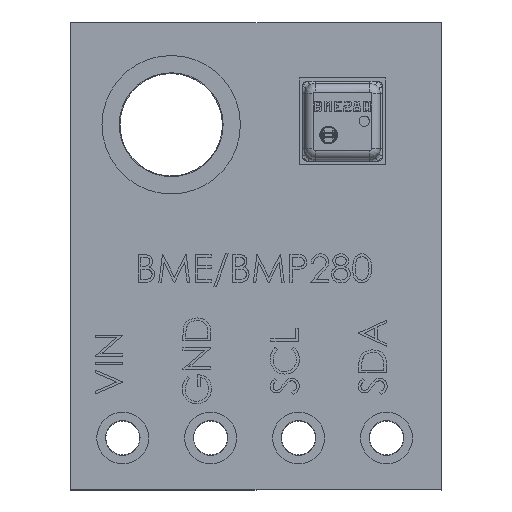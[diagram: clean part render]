
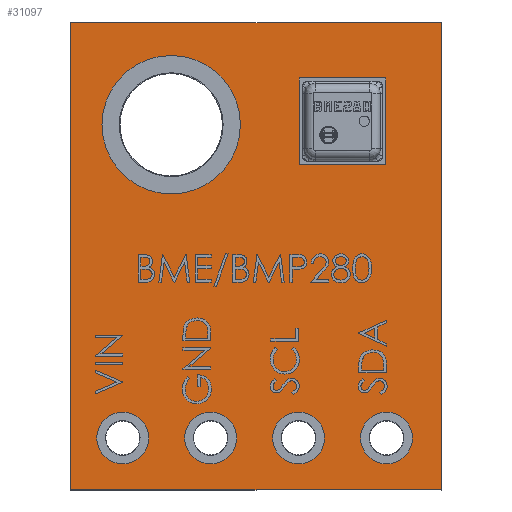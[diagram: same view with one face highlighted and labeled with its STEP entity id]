
A CAD part, top view. The second image highlights one B-rep face of the part: STEP entity #31097.
In plain terms, the highlighted planar face has unit normal (0, 0, 1).
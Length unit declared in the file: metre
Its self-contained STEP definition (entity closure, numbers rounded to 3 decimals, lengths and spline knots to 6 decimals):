
#916 = CIRCLE ( 'NONE', #25855, 0.0005 ) ;
#2314 = FACE_BOUND ( 'NONE', #11970, .T. ) ;
#2342 = ORIENTED_EDGE ( 'NONE', *, *, #15567, .F. ) ;
#2503 = DIRECTION ( 'NONE',  ( 1., 0., 0. ) ) ;
#2860 = LINE ( 'NONE', #10835, #73960 ) ;
#3263 = EDGE_LOOP ( 'NONE', ( #79732, #35209 ) ) ;
#3795 = DIRECTION ( 'NONE',  ( 0., 0., 1. ) ) ;
#4925 = DIRECTION ( 'NONE',  ( 1., 0., 0. ) ) ;
#5903 = EDGE_LOOP ( 'NONE', ( #46539, #21378 ) ) ;
#6475 = EDGE_CURVE ( 'NONE', #59530, #54590, #55738, .T. ) ;
#6711 = DIRECTION ( 'NONE',  ( 0., 1., 0. ) ) ;
#7568 = CARTESIAN_POINT ( 'NONE',  ( -0.00395, 0.01055, 0.0016 ) ) ;
#8249 = EDGE_CURVE ( 'NONE', #74513, #12597, #916, .T. ) ;
#8460 = EDGE_CURVE ( 'NONE', #54590, #59530, #39709, .T. ) ;
#8975 = CARTESIAN_POINT ( 'NONE',  ( -0.00245, 0.01055, 0.0016 ) ) ;
#10835 = CARTESIAN_POINT ( 'NONE',  ( -0.00535, 0., 0.0016 ) ) ;
#10980 = FACE_OUTER_BOUND ( 'NONE', #55291, .T. ) ;
#11472 = VERTEX_POINT ( 'NONE', #42744 ) ;
#11970 = EDGE_LOOP ( 'NONE', ( #47840, #75528 ) ) ;
#12597 = VERTEX_POINT ( 'NONE', #27716 ) ;
#13218 = EDGE_CURVE ( 'NONE', #43951, #11472, #62183, .T. ) ;
#13572 = VERTEX_POINT ( 'NONE', #62143 ) ;
#13901 = CIRCLE ( 'NONE', #23006, 0.0005 ) ;
#13911 = ORIENTED_EDGE ( 'NONE', *, *, #65842, .T. ) ;
#15567 = EDGE_CURVE ( 'NONE', #12597, #74513, #24931, .T. ) ;
#15974 = DIRECTION ( 'NONE',  ( 0., 0., 1. ) ) ;
#16266 = DIRECTION ( 'NONE',  ( 1., 0., 0. ) ) ;
#16425 = DIRECTION ( 'NONE',  ( 1., 0., 0. ) ) ;
#17626 = DIRECTION ( 'NONE',  ( 1., 0., 0. ) ) ;
#17945 = CARTESIAN_POINT ( 'NONE',  ( 0.00123, 0.0015, 0.0016 ) ) ;
#18035 = DIRECTION ( 'NONE',  ( 1., 0., 0. ) ) ;
#18995 = AXIS2_PLACEMENT_3D ( 'NONE', #46425, #71574, #40456 ) ;
#19338 = VECTOR ( 'NONE', #39774, 1. ) ;
#20483 = CARTESIAN_POINT ( 'NONE',  ( -0.00131, 0.0015, 0.0016 ) ) ;
#21378 = ORIENTED_EDGE ( 'NONE', *, *, #6475, .F. ) ;
#21494 = AXIS2_PLACEMENT_3D ( 'NONE', #20483, #44210, #50479 ) ;
#22097 = VERTEX_POINT ( 'NONE', #74052 ) ;
#22608 = CARTESIAN_POINT ( 'NONE',  ( 0.00173, 0.0015, 0.0016 ) ) ;
#23006 = AXIS2_PLACEMENT_3D ( 'NONE', #37123, #69038, #61646 ) ;
#24344 = ORIENTED_EDGE ( 'NONE', *, *, #13218, .F. ) ;
#24931 = CIRCLE ( 'NONE', #69052, 0.0005 ) ;
#25087 = CIRCLE ( 'NONE', #42968, 0.0005 ) ;
#25855 = AXIS2_PLACEMENT_3D ( 'NONE', #17945, #55533, #4925 ) ;
#26111 = VERTEX_POINT ( 'NONE', #71561 ) ;
#27531 = FACE_BOUND ( 'NONE', #57807, .T. ) ;
#27672 = CARTESIAN_POINT ( 'NONE',  ( -0.00535, 0.0135, 0.0016 ) ) ;
#27716 = CARTESIAN_POINT ( 'NONE',  ( 0.00073, 0.0015, 0.0016 ) ) ;
#28610 = EDGE_CURVE ( 'NONE', #26111, #78781, #70004, .T. ) ;
#28782 = AXIS2_PLACEMENT_3D ( 'NONE', #43615, #55084, #18035 ) ;
#29094 = DIRECTION ( 'NONE',  ( 0., 0., 1. ) ) ;
#29371 = DIRECTION ( 'NONE',  ( 1., 0., 0. ) ) ;
#29683 = EDGE_CURVE ( 'NONE', #53187, #22097, #38467, .T. ) ;
#30955 = VECTOR ( 'NONE', #40214, 1. ) ;
#31097 = ADVANCED_FACE ( 'NONE', ( #44105, #27531, #51886, #2314, #60657, #10980 ), #66036, .T. ) ;
#35048 = CARTESIAN_POINT ( 'NONE',  ( -0.00535, 0.0135, 0.0016 ) ) ;
#35209 = ORIENTED_EDGE ( 'NONE', *, *, #57790, .F. ) ;
#35276 = VERTEX_POINT ( 'NONE', #45652 ) ;
#37123 = CARTESIAN_POINT ( 'NONE',  ( -0.00131, 0.0015, 0.0016 ) ) ;
#38467 = CIRCLE ( 'NONE', #28782, 0.0005 ) ;
#39709 = CIRCLE ( 'NONE', #77588, 0.0015 ) ;
#39774 = DIRECTION ( 'NONE',  ( -1., 0., 0. ) ) ;
#40214 = DIRECTION ( 'NONE',  ( 0., -1., 0. ) ) ;
#40456 = DIRECTION ( 'NONE',  ( 1., 0., 0. ) ) ;
#40491 = VECTOR ( 'NONE', #6711, 1. ) ;
#41655 = ORIENTED_EDGE ( 'NONE', *, *, #47904, .F. ) ;
#42039 = CARTESIAN_POINT ( 'NONE',  ( 0., 0., 0.0016 ) ) ;
#42151 = CARTESIAN_POINT ( 'NONE',  ( -0.00385, 0.0015, 0.0016 ) ) ;
#42744 = CARTESIAN_POINT ( 'NONE',  ( 0.00327, 0.0015, 0.0016 ) ) ;
#42968 = AXIS2_PLACEMENT_3D ( 'NONE', #59529, #3795, #66369 ) ;
#43615 = CARTESIAN_POINT ( 'NONE',  ( -0.00385, 0.0015, 0.0016 ) ) ;
#43951 = VERTEX_POINT ( 'NONE', #72954 ) ;
#44105 = FACE_BOUND ( 'NONE', #3263, .T. ) ;
#44210 = DIRECTION ( 'NONE',  ( 0., 0., 1. ) ) ;
#44521 = AXIS2_PLACEMENT_3D ( 'NONE', #42039, #54569, #16425 ) ;
#44645 = ORIENTED_EDGE ( 'NONE', *, *, #76860, .T. ) ;
#45173 = EDGE_CURVE ( 'NONE', #68158, #45353, #2860, .T. ) ;
#45353 = VERTEX_POINT ( 'NONE', #70685 ) ;
#45652 = CARTESIAN_POINT ( 'NONE',  ( -0.00181, 0.0015, 0.0016 ) ) ;
#46425 = CARTESIAN_POINT ( 'NONE',  ( -0.00245, 0.01055, 0.0016 ) ) ;
#46539 = ORIENTED_EDGE ( 'NONE', *, *, #8460, .F. ) ;
#47840 = ORIENTED_EDGE ( 'NONE', *, *, #78863, .F. ) ;
#47904 = EDGE_CURVE ( 'NONE', #11472, #43951, #25087, .T. ) ;
#49321 = CIRCLE ( 'NONE', #21494, 0.0005 ) ;
#50479 = DIRECTION ( 'NONE',  ( 1., 0., 0. ) ) ;
#51886 = FACE_BOUND ( 'NONE', #78197, .T. ) ;
#52111 = CIRCLE ( 'NONE', #59899, 0.0005 ) ;
#53187 = VERTEX_POINT ( 'NONE', #70430 ) ;
#54569 = DIRECTION ( 'NONE',  ( 0., 0., 1. ) ) ;
#54590 = VERTEX_POINT ( 'NONE', #67486 ) ;
#54902 = CARTESIAN_POINT ( 'NONE',  ( 0.00535, 0.0135, 0.0016 ) ) ;
#54956 = DIRECTION ( 'NONE',  ( 0., 0., 1. ) ) ;
#55084 = DIRECTION ( 'NONE',  ( 0., 0., 1. ) ) ;
#55291 = EDGE_LOOP ( 'NONE', ( #13911, #59079, #44645, #69959 ) ) ;
#55533 = DIRECTION ( 'NONE',  ( 0., 0., 1. ) ) ;
#55738 = CIRCLE ( 'NONE', #18995, 0.0015 ) ;
#57790 = EDGE_CURVE ( 'NONE', #35276, #13572, #13901, .T. ) ;
#57807 = EDGE_LOOP ( 'NONE', ( #74127, #2342 ) ) ;
#59079 = ORIENTED_EDGE ( 'NONE', *, *, #45173, .T. ) ;
#59529 = CARTESIAN_POINT ( 'NONE',  ( 0.00377, 0.0015, 0.0016 ) ) ;
#59530 = VERTEX_POINT ( 'NONE', #7568 ) ;
#59899 = AXIS2_PLACEMENT_3D ( 'NONE', #42151, #54956, #17626 ) ;
#60657 = FACE_BOUND ( 'NONE', #5903, .T. ) ;
#61068 = CARTESIAN_POINT ( 'NONE',  ( 0.00377, 0.0015, 0.0016 ) ) ;
#61646 = DIRECTION ( 'NONE',  ( 1., 0., 0. ) ) ;
#62143 = CARTESIAN_POINT ( 'NONE',  ( -0.00081, 0.0015, 0.0016 ) ) ;
#62155 = DIRECTION ( 'NONE',  ( 0., 0., 1. ) ) ;
#62183 = CIRCLE ( 'NONE', #64064, 0.0005 ) ;
#64064 = AXIS2_PLACEMENT_3D ( 'NONE', #61068, #62155, #73947 ) ;
#64281 = CARTESIAN_POINT ( 'NONE',  ( -0.00535, 0.0135, 0.0016 ) ) ;
#65842 = EDGE_CURVE ( 'NONE', #78781, #68158, #72917, .T. ) ;
#66036 = PLANE ( 'NONE',  #44521 ) ;
#66369 = DIRECTION ( 'NONE',  ( 1., 0., 0. ) ) ;
#66733 = CARTESIAN_POINT ( 'NONE',  ( 0.00123, 0.0015, 0.0016 ) ) ;
#67486 = CARTESIAN_POINT ( 'NONE',  ( -0.00095, 0.01055, 0.0016 ) ) ;
#68158 = VERTEX_POINT ( 'NONE', #75748 ) ;
#69038 = DIRECTION ( 'NONE',  ( 0., 0., 1. ) ) ;
#69052 = AXIS2_PLACEMENT_3D ( 'NONE', #66733, #29094, #29371 ) ;
#69959 = ORIENTED_EDGE ( 'NONE', *, *, #28610, .T. ) ;
#70004 = LINE ( 'NONE', #64281, #19338 ) ;
#70057 = EDGE_CURVE ( 'NONE', #13572, #35276, #49321, .T. ) ;
#70430 = CARTESIAN_POINT ( 'NONE',  ( -0.00435, 0.0015, 0.0016 ) ) ;
#70685 = CARTESIAN_POINT ( 'NONE',  ( 0.00535, 0., 0.0016 ) ) ;
#71561 = CARTESIAN_POINT ( 'NONE',  ( 0.00535, 0.0135, 0.0016 ) ) ;
#71574 = DIRECTION ( 'NONE',  ( 0., 0., 1. ) ) ;
#72917 = LINE ( 'NONE', #27672, #30955 ) ;
#72954 = CARTESIAN_POINT ( 'NONE',  ( 0.00427, 0.0015, 0.0016 ) ) ;
#73947 = DIRECTION ( 'NONE',  ( 1., 0., 0. ) ) ;
#73960 = VECTOR ( 'NONE', #16266, 1. ) ;
#74052 = CARTESIAN_POINT ( 'NONE',  ( -0.00335, 0.0015, 0.0016 ) ) ;
#74127 = ORIENTED_EDGE ( 'NONE', *, *, #8249, .F. ) ;
#74513 = VERTEX_POINT ( 'NONE', #22608 ) ;
#75528 = ORIENTED_EDGE ( 'NONE', *, *, #29683, .F. ) ;
#75748 = CARTESIAN_POINT ( 'NONE',  ( -0.00535, 0., 0.0016 ) ) ;
#76860 = EDGE_CURVE ( 'NONE', #45353, #26111, #77571, .T. ) ;
#77571 = LINE ( 'NONE', #54902, #40491 ) ;
#77588 = AXIS2_PLACEMENT_3D ( 'NONE', #8975, #15974, #2503 ) ;
#78197 = EDGE_LOOP ( 'NONE', ( #24344, #41655 ) ) ;
#78781 = VERTEX_POINT ( 'NONE', #35048 ) ;
#78863 = EDGE_CURVE ( 'NONE', #22097, #53187, #52111, .T. ) ;
#79732 = ORIENTED_EDGE ( 'NONE', *, *, #70057, .F. ) ;
